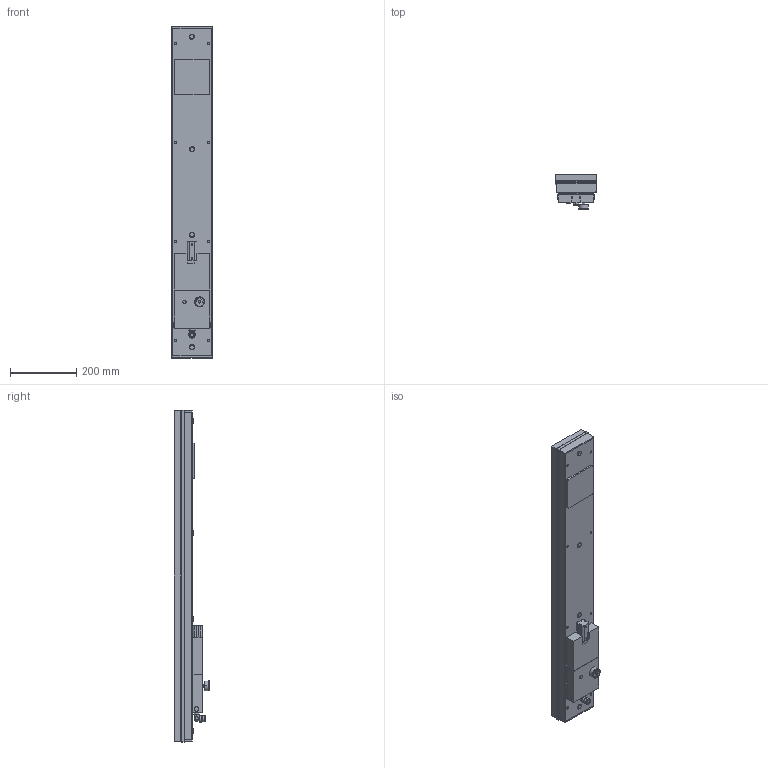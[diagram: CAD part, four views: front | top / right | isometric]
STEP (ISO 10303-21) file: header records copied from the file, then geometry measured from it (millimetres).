
FILE_DESCRIPTION (( 'STEP AP214' ), '1' );
FILE_NAME ('3-9-21597.STEP', '2012-09-13T06:23:23', ( 'cad' ), ( 'Microsoft' ), 'SwSTEP 2.0', 'SolidWorks 2012', '' );
FILE_SCHEMA (( 'AUTOMOTIVE_DESIGN' ));
Length unit declared in the file: millimetre
Products named in the file (1): 3-9-21597
Bounding box: 126 x 107 x 1006 mm (x, y, z)
Volume: 6932714.5 mm3; surface area: 618236.2 mm2
Topology: 1 solids, 1 shells, 801 faces, 1774 edges, 1144 vertices
Faces by surface type: cylinder 387, plane 365, cone 40, bspline 8, sphere 1
Entity records: 26864 total; most frequent: CARTESIAN_POINT 4230, DIRECTION 4112, ORIENTED_EDGE 3548, EDGE_CURVE 1774, AXIS2_PLACEMENT_3D 1610, VERTEX_POINT 1144, EDGE_LOOP 970, LINE 892
